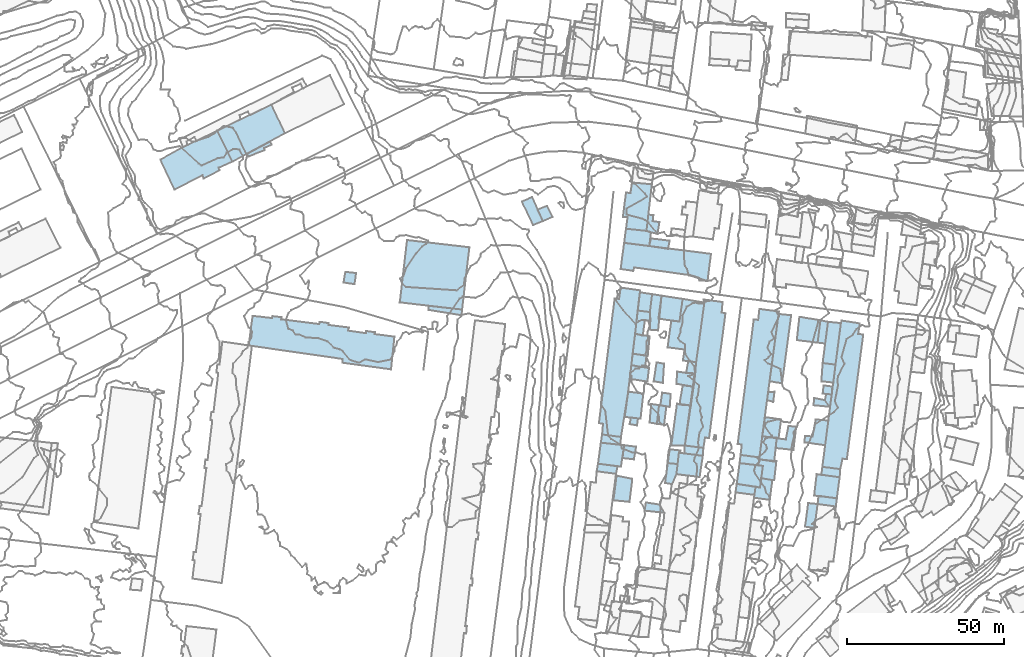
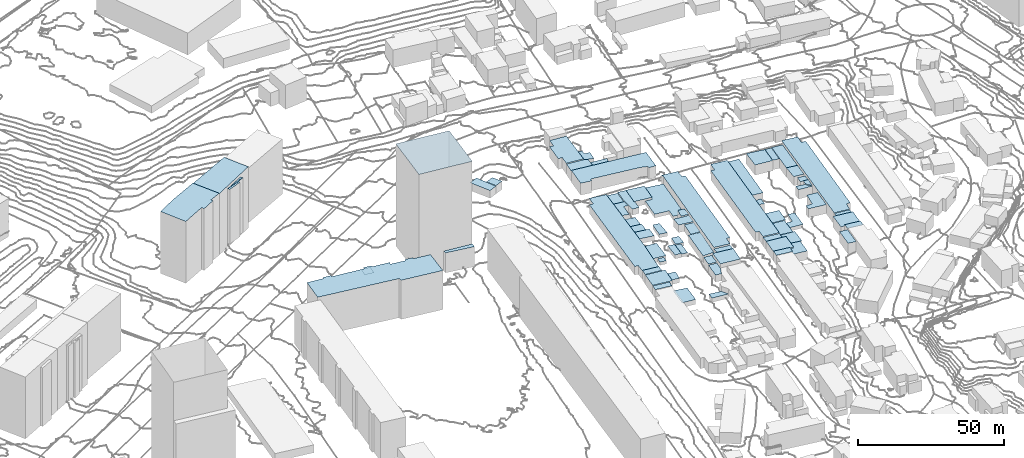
# Not in any storey, part 90 of 419: 68 roofs.
"""IFC2X3 model written with IfcOpenShell, lengths in metres."""

import ifcopenshell
import ifcopenshell.guid

model = None  # the IFC model being written
_history = None  # IfcOwnerHistory: only IFC2X3 demands one
_inside = {}  # id of a spatial element -> (the spatial element, [elements in it])
_under = {}  # id of a project, library or spatial element -> (it, [spatial elements below it])
_declared = {}  # id of a project -> (the project, [libraries it declares])
_typed = {}  # id of a type object -> (the type object, [elements of that type])
_made_of = {}  # id of a material, layer set ... -> (it, [elements and type objects made of it])


def new_model(schema):
    """Start an empty IFC model of exactly this schema.

    Asked for "IFC4X3", IfcOpenShell would pick the latest addendum, in which some entities
    have other attributes; the version numbers below select the first issue.
    IFC2X3 requires an IfcOwnerHistory on every rooted entity: one is made here for all.
    """
    global model, _history
    if schema == "IFC4X3":
        model = ifcopenshell.file(schema_version=(4, 3, 0, 0))
    else:
        model = ifcopenshell.file(schema=schema)
    _inside.clear()
    _under.clear()
    _declared.clear()
    _typed.clear()
    _made_of.clear()
    _history = None
    if model.schema == "IFC2X3":
        org = make("IfcOrganization", Name="unknown")
        user = make(
            "IfcPersonAndOrganization",
            ThePerson=make("IfcPerson", FamilyName="unknown"),
            TheOrganization=org,
        )
        app = make(
            "IfcApplication",
            ApplicationDeveloper=org,
            Version="unknown",
            ApplicationFullName="unknown",
            ApplicationIdentifier="unknown",
        )
        _history = make(
            "IfcOwnerHistory",
            OwningUser=user,
            OwningApplication=app,
            ChangeAction="ADDED",
            CreationDate=0,
        )
    return model


def make(cls, **values):
    """One entity of the class cls with the attributes given. An attribute that is None is left unset."""
    return model.create_entity(
        cls, **{name: value for name, value in values.items() if value is not None}
    )


def rooted(cls, **values):
    """An entity with a GlobalId (a new one), such as an element, a storey or a relation."""
    return make(cls, GlobalId=ifcopenshell.guid.new(), OwnerHistory=_history, **values)


def si_unit(unit_type, name, prefix=None):
    """IfcSIUnit, for example si_unit("LENGTHUNIT", "METRE", prefix="MILLI")."""
    return make("IfcSIUnit", UnitType=unit_type, Prefix=prefix, Name=name)


def assignment(units):
    """IfcUnitAssignment: the units of a project."""
    return None if units is None else make("IfcUnitAssignment", Units=units)


def point(xyz):
    """IfcCartesianPoint."""
    return None if xyz is None else make("IfcCartesianPoint", Coordinates=xyz)


def direction(xyz):
    """IfcDirection."""
    return None if xyz is None else make("IfcDirection", DirectionRatios=xyz)


def frame(location, z_axis=None, x_axis=None):
    """IfcAxis2Placement3D, a coordinate frame: its origin and axes. An axis left out is left unset."""
    return make(
        "IfcAxis2Placement3D",
        Location=point(location),
        Axis=direction(z_axis),
        RefDirection=direction(x_axis),
    )


def origin_with_axes():
    """The frame at (0, 0, 0) with the z axis (0, 0, 1) and the x axis (1, 0, 0) written out."""
    return frame((0.0, 0.0, 0.0), z_axis=(0.0, 0.0, 1.0), x_axis=(1.0, 0.0, 0.0))


def place(relative_to, where):
    """IfcLocalPlacement: puts the frame where relative to a parent placement (None: the world)."""
    return make(
        "IfcLocalPlacement", PlacementRelTo=relative_to, RelativePlacement=where
    )


def context(
    kind, dimensions, precision=None, world=None, true_north=None, identifier=None
):
    """IfcGeometricRepresentationContext, for example the 3D "Model" context."""
    return make(
        "IfcGeometricRepresentationContext",
        ContextIdentifier=identifier,
        ContextType=kind,
        CoordinateSpaceDimension=dimensions,
        Precision=precision,
        WorldCoordinateSystem=world,
        TrueNorth=true_north,
    )


def subcontext(parent, identifier, kind, view, scale=None):
    """IfcGeometricRepresentationSubContext, for example "Body" below "Model"."""
    return make(
        "IfcGeometricRepresentationSubContext",
        ContextIdentifier=identifier,
        ContextType=kind,
        ParentContext=parent,
        TargetScale=scale,
        TargetView=view,
    )


def project(units=None, contexts=None):
    """IfcProject with its units and contexts."""
    return rooted(
        "IfcProject",
        Name="project",
        RepresentationContexts=contexts,
        UnitsInContext=assignment(units),
    )


def faces_of(points, faces, orient=None, outer=None):
    """IfcFace entities. A face is a list of loops; a loop is a list of indices into points, from 0.

    orient and outer hold one flag for each loop. By default every Orientation is true, the
    first loop of a face is its IfcFaceOuterBound and the others are IfcFaceBound.
    """
    made = []
    for i, loops in enumerate(faces):
        bounds = []
        for j, loop in enumerate(loops):
            is_outer = j == 0 if outer is None else outer[i][j]
            bounds.append(
                make(
                    "IfcFaceOuterBound" if is_outer else "IfcFaceBound",
                    Bound=make("IfcPolyLoop", Polygon=[points[k] for k in loop]),
                    Orientation=True if orient is None else orient[i][j],
                )
            )
        made.append(make("IfcFace", Bounds=bounds))
    return made


def faceted_brep(points, faces, orient=None, outer=None, voids=None):
    """IfcFacetedBrep: a solid bounded by flat faces; with voids (closed shells), ...WithVoids."""
    shared = [point(p) for p in points]
    hull = make("IfcClosedShell", CfsFaces=faces_of(shared, faces, orient, outer))
    if voids is None:
        return make("IfcFacetedBrep", Outer=hull)
    return make(
        "IfcFacetedBrepWithVoids",
        Outer=hull,
        Voids=[
            make(cls, CfsFaces=faces_of(shared, fs, o, b)) for cls, fs, o, b in voids
        ],
    )


def shape(context_of_items, identifier, shape_type, items):
    """IfcShapeRepresentation: the items that make up one representation, for example the "Body"."""
    return make(
        "IfcShapeRepresentation",
        ContextOfItems=context_of_items,
        RepresentationIdentifier=identifier,
        RepresentationType=shape_type,
        Items=items,
    )


def made_of(thing, what):
    """Note that an element or type object is made of a material, layer set ...; save() writes the relation."""
    if what is not None:
        _made_of.setdefault(what.id(), (what, []))[1].append(thing)
    return thing


def element(
    cls,
    number,
    at=None,
    inside=None,
    cuts=None,
    type_object=None,
    material=None,
    context=None,
    identifier="Body",
    shape_type=None,
    held_by="IfcProductDefinitionShape",
    body=None,
    shapes=None,
    **own,
):
    """One element of the class cls, such as IfcWall. Its Tag is "e" and its number.

    at: its placement. inside: the storey or other place that contains it. cuts: it is an
    opening in that element (IfcRelVoidsElement). A single representation is given by context,
    identifier, shape_type and body (its items); several are given by shapes. held_by: the class
    of the entity that holds the representations. save() writes the other relations.
    """
    e = rooted(cls, Tag="e%d" % number, ObjectPlacement=at, **own)
    if body is not None:
        shapes = [shape(context, identifier, shape_type, body)]
    if shapes is not None:
        e.Representation = make(held_by, Representations=shapes)
    if inside is not None:
        _inside.setdefault(inside.id(), (inside, []))[1].append(e)
    if cuts is not None:
        rooted(
            "IfcRelVoidsElement", RelatingBuildingElement=cuts, RelatedOpeningElement=e
        )
    if type_object is not None:
        _typed.setdefault(type_object.id(), (type_object, []))[1].append(e)
    return made_of(e, material)


def aggregate(whole, parts):
    """IfcRelAggregates: a whole, such as a stair, and the parts it consists of."""
    return rooted("IfcRelAggregates", RelatingObject=whole, RelatedObjects=parts)


def save(model, path):
    """Write the relations noted so far, then the file.

    IfcRelAggregates (storeys below a building ...), IfcRelContainedInSpatialStructure (elements
    in a storey), IfcRelDefinesByType, IfcRelAssociatesMaterial and IfcRelDeclares: one each for
    every whole, place, type object, material and project.
    """
    for whole, parts in _under.values():
        aggregate(whole, parts)
    for where, things in _inside.values():
        rooted(
            "IfcRelContainedInSpatialStructure",
            RelatedElements=things,
            RelatingStructure=where,
        )
    for kind, things in _typed.values():
        rooted("IfcRelDefinesByType", RelatedObjects=things, RelatingType=kind)
    for what, things in _made_of.values():
        rooted("IfcRelAssociatesMaterial", RelatedObjects=things, RelatingMaterial=what)
    for by, libraries in _declared.values():
        rooted("IfcRelDeclares", RelatingContext=by, RelatedDefinitions=libraries)
    model.write(path)


model = new_model("IFC2X3")

# Units and contexts
model_context = context("Model", 3, precision=1e-05, world=origin_with_axes())
body_context = subcontext(model_context, "Body", "Model", "MODEL_VIEW")
ifc_project = project(units=[si_unit("AREAUNIT", "SQUARE_METRE"), si_unit("LENGTHUNIT", "METRE")], contexts=[model_context])

# Roofs
roof_1_placement = place(None, frame((536.0920204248, 752.4976909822, 39.0440010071), z_axis=(0.0, 0.0, 1.0), x_axis=(1.0, 0.0, 0.0)))
element("IfcRoof", 1, at=roof_1_placement, Name="Toiture 0", ShapeType="NOTDEFINED", context=body_context, shape_type="Brep", body=[
    faceted_brep([(0.9, -4.0999999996, 2.6559989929), (4.4, -4.6999999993, 2.6559989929), (5.0, -4.6999999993, 2.6559989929), (5.7, 1.3000000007, 2.6559989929), (0.2, 1.9000000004, 2.6559989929), (0.0, 0.0, 2.6559989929), (1.4, -0.1999999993, 2.6559989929)], [[[0, 1, 2]], [[2, 3, 4]], [[4, 5, 6]], [[6, 0, 2]], [[2, 4, 6]]]),
])
roof_2_placement = place(None, frame((536.2920204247, 754.3976909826, 38.9300006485), z_axis=(0.0, 0.0, 1.0), x_axis=(1.0, 0.0, 0.0)))
element("IfcRoof", 2, at=roof_2_placement, Name="Toiture 0", ShapeType="NOTDEFINED", context=body_context, shape_type="Brep", body=[
    faceted_brep([(0.0, 0.0, 2.8699993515), (4.8, -0.7000000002, 2.8699993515), (5.6000000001, 6.7000000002, 2.8699993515), (1.0, 7.2999999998, 2.8699993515)], [[[0, 1, 2]], [[2, 3, 0]]]),
])
roof_3_placement = place(None, frame((537.2920204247, 761.6976909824, 38.8383990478), z_axis=(0.0, 0.0, 1.0), x_axis=(1.0, 0.0, 0.0)))
element("IfcRoof", 3, at=roof_3_placement, Name="Toiture 0", ShapeType="NOTDEFINED", context=body_context, shape_type="Brep", body=[
    faceted_brep([(0.9, 6.1000000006, 3.0616009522), (0.0, 0.0, 3.0616009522), (5.2000000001, -0.5, 3.0616009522), (6.0, 5.4000000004, 3.0616009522)], [[[0, 1, 2]], [[2, 3, 0]]]),
])
roof_4_placement = place(None, frame((500.4920204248, 826.9976909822, 37.8899995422), z_axis=(0.0, 0.0, 1.0), x_axis=(1.0, 0.0, 0.0)))
element("IfcRoof", 4, at=roof_4_placement, Name="Toiture 0", ShapeType="NOTDEFINED", context=body_context, shape_type="Brep", body=[
    faceted_brep([(0.6, 5.2000000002, 3.8100004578), (0.0, 0.0, 3.8100004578), (3.5, -1.0, 3.8100004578), (4.1, 2.8000000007, 3.8100004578), (2.0, 3.1000000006, 3.8100004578), (2.2, 5.0, 3.8100004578)], [[[0, 1, 2]], [[2, 3, 4]], [[4, 5, 0]], [[0, 2, 4]]]),
])
roof_5_placement = place(None, frame((496.0920204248, 787.9976909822, 36.4690006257), z_axis=(0.0, 0.0, 1.0), x_axis=(1.0, 0.0, 0.0)))
element("IfcRoof", 5, at=roof_5_placement, Name="Toiture 0", ShapeType="NOTDEFINED", context=body_context, shape_type="Brep", body=[
    faceted_brep([(5.4, 5.5, 1.1309993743), (0.8, 6.3000000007, 1.1309993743), (0.0, 0.0, 1.1309993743), (4.8, -0.6999999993, 1.1309993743)], [[[0, 1, 2]], [[2, 3, 0]]]),
])
roof_6_placement = place(None, frame((492.9920204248, 831.4976909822, 37.6191995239), z_axis=(0.0, 0.0, 1.0), x_axis=(1.0, 0.0, 0.0)))
element("IfcRoof", 6, at=roof_6_placement, Name="Toiture 0", ShapeType="NOTDEFINED", context=body_context, shape_type="Brep", body=[
    faceted_brep([(1.0, -3.7999999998, 4.4808004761), (7.5, -4.5, 4.4808004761), (9.2, 10.3000000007, 4.4808004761), (2.9, 10.9000000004, 4.4808004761), (2.4, 7.5, 4.4808004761), (1.0, 7.7000000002, 4.4808004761), (0.0, 0.0, 4.4808004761), (1.5, -0.0999999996, 4.4808004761)], [[[0, 1, 2]], [[2, 3, 4]], [[4, 5, 6]], [[7, 0, 2]], [[2, 4, 6]], [[6, 7, 2]]]),
])
roof_7_placement = place(None, frame((534.6920204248, 742.1976909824, 38.0832015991), z_axis=(0.0, 0.0, 1.0), x_axis=(1.0, 0.0, 0.0)))
element("IfcRoof", 7, at=roof_7_placement, Name="Toiture 0", ShapeType="NOTDEFINED", context=body_context, shape_type="Brep", body=[
    faceted_brep([(0.5, 3.5, 3.6167984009), (0.1, 0.9000000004, 3.6167984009), (0.0, 0.0, 3.6167984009), (5.0, -0.7000000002, 3.6167984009), (5.8, 5.6000000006, 3.6167984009), (2.3, 6.2000000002, 3.6167984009), (1.9, 3.2000000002, 3.6167984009)], [[[0, 1, 2]], [[2, 3, 4]], [[4, 5, 6]], [[6, 0, 2]], [[2, 4, 6]]]),
])
roof_8_placement = place(None, frame((553.7920204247, 742.8976909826, 41.4479988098), z_axis=(0.0, 0.0, 1.0), x_axis=(1.0, 0.0, 0.0)))
element("IfcRoof", 8, at=roof_8_placement, Name="Toiture 0", ShapeType="NOTDEFINED", context=body_context, shape_type="Brep", body=[
    faceted_brep([(7.2000000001, -0.9000000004, 4.5520011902), (8.1000000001, 5.7999999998, 4.5520011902), (0.8, 6.7999999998, 4.5520011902), (0.0, 0.0, 4.5520011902)], [[[0, 1, 2]], [[2, 3, 0]]]),
])
roof_9_placement = place(None, frame((373.5920204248, 851.4976909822, 36.4020008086), z_axis=(0.0, 0.0, 1.0), x_axis=(1.0, 0.0, 0.0)))
element("IfcRoof", 9, at=roof_9_placement, Name="Toiture 0", ShapeType="NOTDEFINED", context=body_context, shape_type="Brep", body=[
    faceted_brep([(7.8, 3.0, 22.7979991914), (7.3, 3.9000000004, 22.7979991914), (0.0, 0.0, 22.7979991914), (0.4, -0.7999999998, 22.7979991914), (5.5, 1.2000000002, 22.7979991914), (5.4, 1.9000000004, 22.7979991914)], [[[0, 1, 2]], [[2, 3, 4]], [[5, 0, 2]], [[2, 4, 5]]]),
])
roof_10_placement = place(None, frame((550.8920204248, 732.9976909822, 41.685300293), z_axis=(0.0, 0.0, 1.0), x_axis=(1.0, 0.0, 0.0)))
element("IfcRoof", 10, at=roof_10_placement, Name="Toiture 0", ShapeType="NOTDEFINED", context=body_context, shape_type="Brep", body=[
    faceted_brep([(3.0, -0.3999999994, 4.414699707), (4.0, 7.2000000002, 4.414699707), (1.0, 7.5, 4.414699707), (0.0, 0.0, 4.414699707)], [[[0, 1, 2]], [[2, 3, 0]]]),
])
roof_11_placement = place(None, frame((538.7920204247, 773.1976909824, 38.4532003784), z_axis=(0.0, 0.0, 1.0), x_axis=(1.0, 0.0, 0.0)))
element("IfcRoof", 11, at=roof_11_placement, Name="Toiture 0", ShapeType="NOTDEFINED", context=body_context, shape_type="Brep", body=[
    faceted_brep([(2.4, 2.7000000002, 3.7467996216), (0.4, 2.6000000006, 3.7467996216), (0.0, 0.0, 3.7467996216), (2.0, -0.5, 3.7467996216)], [[[0, 1, 2]], [[2, 3, 0]]]),
])
roof_12_placement = place(None, frame((556.0920204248, 749.4976909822, 41.3992001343), z_axis=(0.0, 0.0, 1.0), x_axis=(1.0, 0.0, 0.0)))
element("IfcRoof", 12, at=roof_12_placement, Name="Toiture 0", ShapeType="NOTDEFINED", context=body_context, shape_type="Brep", body=[
    faceted_brep([(5.8, -0.7999999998, 3.8007998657), (6.0, 1.8000000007, 3.8007998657), (0.3, 2.5, 3.8007998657), (0.0, 0.0, 3.8007998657)], [[[0, 1, 2]], [[2, 3, 0]]]),
])
roof_13_placement = place(None, frame((502.7920204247, 779.1976909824, 37.2367999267), z_axis=(0.0, 0.0, 1.0), x_axis=(1.0, 0.0, 0.0)))
element("IfcRoof", 13, at=roof_13_placement, Name="Toiture 0", ShapeType="NOTDEFINED", context=body_context, shape_type="Brep", body=[
    faceted_brep([(3.3, 5.6000000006, 1.4632000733), (0.9, 6.0, 1.4632000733), (0.0, 0.0, 1.4632000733), (2.9, -0.5, 1.4632000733)], [[[0, 1, 2]], [[2, 3, 0]]]),
])
roof_14_placement = place(None, frame((503.7920204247, 765.6976909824, 36.9349994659), z_axis=(0.0, 0.0, 1.0), x_axis=(1.0, 0.0, 0.0)))
element("IfcRoof", 14, at=roof_14_placement, Name="Toiture 0", ShapeType="NOTDEFINED", context=body_context, shape_type="Brep", body=[
    faceted_brep([(3.0, 5.5, 1.2650005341), (0.7000000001, 5.9000000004, 1.2650005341), (0.0, 0.0, 1.2650005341), (2.3, -0.2999999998, 1.2650005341)], [[[0, 1, 2]], [[2, 3, 0]]]),
])
roof_15_placement = place(None, frame((508.3920204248, 758.7976909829, 37.1160003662), z_axis=(0.0, 0.0, 1.0), x_axis=(1.0, 0.0, 0.0)))
element("IfcRoof", 15, at=roof_15_placement, Name="Toiture 0", ShapeType="NOTDEFINED", context=body_context, shape_type="Brep", body=[
    faceted_brep([(0.0, 0.0, 2.9839996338), (4.2999999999, 0.0, 2.9839996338), (6.2, 12.6999999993, 2.9839996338), (1.7999999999, 13.2999999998, 2.9839996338)], [[[0, 1, 2]], [[2, 3, 0]]]),
])
roof_16_placement = place(None, frame((512.4920204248, 756.2976909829, 37.5744013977), z_axis=(0.0, 0.0, 1.0), x_axis=(1.0, 0.0, 0.0)))
element("IfcRoof", 16, at=roof_16_placement, Name="Toiture 0", ShapeType="NOTDEFINED", context=body_context, shape_type="Brep", body=[
    faceted_brep([(6.1, 1.6999999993, 3.9255986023), (0.2, 2.5, 3.9255986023), (0.0, 0.0, 3.9255986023), (5.9, -0.8000000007, 3.9255986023)], [[[0, 1, 2]], [[2, 3, 0]]]),
])
roof_17_placement = place(None, frame((495.6920204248, 784.2976909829, 36.4690006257), z_axis=(0.0, 0.0, 1.0), x_axis=(1.0, 0.0, 0.0)))
element("IfcRoof", 17, at=roof_17_placement, Name="Toiture 0", ShapeType="NOTDEFINED", context=body_context, shape_type="Brep", body=[
    faceted_brep([(4.8, 3.0, 2.4309993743), (0.4, 3.6999999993, 2.4309993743), (0.0, 0.0, 2.4309993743), (4.4, -0.7000000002, 2.4309993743)], [[[0, 1, 2]], [[2, 3, 0]]]),
])
roof_18_placement = place(None, frame((507.2920204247, 753.1976909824, 37.0859994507), z_axis=(0.0, 0.0, 1.0), x_axis=(1.0, 0.0, 0.0)))
element("IfcRoof", 18, at=roof_18_placement, Name="Toiture 0", ShapeType="NOTDEFINED", context=body_context, shape_type="Brep", body=[
    faceted_brep([(3.5, 3.2999999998, 3.3140005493), (4.0, 4.0, 3.3140005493), (0.6000000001, 4.4000000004, 3.3140005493), (0.0, 0.0, 3.3140005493), (3.1000000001, -0.2999999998, 3.3140005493)], [[[0, 1, 2]], [[2, 3, 4]], [[4, 0, 2]]]),
])
roof_19_placement = place(None, frame((492.8920204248, 754.7976909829, 35.7219993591), z_axis=(0.0, 0.0, 1.0), x_axis=(1.0, 0.0, 0.0)))
element("IfcRoof", 19, at=roof_19_placement, Name="Toiture 0", ShapeType="NOTDEFINED", context=body_context, shape_type="Brep", body=[
    faceted_brep([(0.5, 4.0999999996, 1.8780006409), (0.0, 0.0, 1.8780006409), (3.6, -0.4000000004, 1.8780006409), (4.2999999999, 3.5999999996, 1.8780006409)], [[[0, 1, 2]], [[2, 3, 0]]]),
])
roof_20_placement = place(None, frame((507.1920204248, 789.9976909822, 37.4983999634), z_axis=(0.0, 0.0, 1.0), x_axis=(1.0, 0.0, 0.0)))
element("IfcRoof", 20, at=roof_20_placement, Name="Toiture 0", ShapeType="NOTDEFINED", context=body_context, shape_type="Brep", body=[
    faceted_brep([(11.7000000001, 14.2000000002, 1.5016000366), (4.8, 15.4000000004, 1.5016000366), (3.8, 8.2000000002, 1.5016000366), (1.2000000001, 8.5, 1.5016000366), (0.0, 0.0, 1.5016000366), (5.4, -0.6999999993, 1.5016000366), (4.9, -4.1999999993, 1.5016000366), (9.1, -4.6999999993, 1.5016000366)], [[[0, 1, 2]], [[2, 3, 4]], [[5, 6, 7]], [[7, 0, 2]], [[2, 4, 5]], [[5, 7, 2]]]),
])
roof_21_placement = place(None, frame((513.0920204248, 781.8976909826, 37.9384004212), z_axis=(0.0, 0.0, 1.0), x_axis=(1.0, 0.0, 0.0)))
element("IfcRoof", 21, at=roof_21_placement, Name="Toiture 0", ShapeType="NOTDEFINED", context=body_context, shape_type="Brep", body=[
    faceted_brep([(3.2, 3.4000000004, 3.0615995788), (0.7, 3.7000000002, 3.0615995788), (0.0, 0.0, 3.0615995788), (2.9, -0.2000000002, 3.0615995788)], [[[0, 1, 2]], [[2, 3, 0]]]),
])
roof_22_placement = place(None, frame((495.1920204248, 779.9976909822, 36.8950008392), z_axis=(0.0, 0.0, 1.0), x_axis=(1.0, 0.0, 0.0)))
element("IfcRoof", 22, at=roof_22_placement, Name="Toiture 0", ShapeType="NOTDEFINED", context=body_context, shape_type="Brep", body=[
    faceted_brep([(6.1, 3.4000000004, 2.0049991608), (0.5, 4.3000000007, 2.0049991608), (0.0, 0.0, 2.0049991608), (5.6, -0.8999999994, 2.0049991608)], [[[0, 1, 2]], [[2, 3, 0]]]),
])
roof_23_placement = place(None, frame((495.1920204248, 765.5976909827, 36.6363998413), z_axis=(0.0, 0.0, 1.0), x_axis=(1.0, 0.0, 0.0)))
element("IfcRoof", 23, at=roof_23_placement, Name="Toiture 0", ShapeType="NOTDEFINED", context=body_context, shape_type="Brep", body=[
    faceted_brep([(2.6, 1.7999999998, 1.3636001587), (0.3, 2.0999999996, 1.3636001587), (0.0, 0.0, 1.3636001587), (2.3, -0.4000000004, 1.3636001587)], [[[0, 1, 2]], [[2, 3, 0]]]),
])
roof_24_placement = place(None, frame((556.4920204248, 775.2976909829, 40.5619991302), z_axis=(0.0, 0.0, 1.0), x_axis=(1.0, 0.0, 0.0)))
element("IfcRoof", 24, at=roof_24_placement, Name="Toiture 0", ShapeType="NOTDEFINED", context=body_context, shape_type="Brep", body=[
    faceted_brep([(2.9, -0.3000000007, 3.7380008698), (3.1, 2.1999999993, 3.7380008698), (0.2999999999, 2.5999999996, 3.7380008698), (0.0, 0.0, 3.7380008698)], [[[0, 1, 2]], [[2, 3, 0]]]),
])
roof_25_placement = place(None, frame((485.9920204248, 759.6976909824, 35.5533998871), z_axis=(0.0, 0.0, 1.0), x_axis=(1.0, 0.0, 0.0)))
element("IfcRoof", 25, at=roof_25_placement, Name="Toiture 0", ShapeType="NOTDEFINED", context=body_context, shape_type="Brep", body=[
    faceted_brep([(0.4, 2.6000000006, 4.0466001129), (0.0, 0.0, 4.0466001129), (6.2, -0.7000000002, 4.0466001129), (6.4, 1.7999999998, 4.0466001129)], [[[0, 1, 2]], [[2, 3, 0]]]),
])
roof_26_placement = place(None, frame((556.4920204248, 784.9976909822, 40.2458000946), z_axis=(0.0, 0.0, 1.0), x_axis=(1.0, 0.0, 0.0)))
element("IfcRoof", 26, at=roof_26_placement, Name="Toiture 0", ShapeType="NOTDEFINED", context=body_context, shape_type="Brep", body=[
    faceted_brep([(5.7999999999, 12.7000000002, 3.9541999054), (1.7, 13.1000000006, 3.9541999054), (0.0, 0.0, 3.9541999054), (4.1, -0.5, 3.9541999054)], [[[0, 1, 2]], [[2, 3, 0]]]),
])
roof_27_placement = place(None, frame((556.0920204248, 779.1976909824, 40.3780010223), z_axis=(0.0, 0.0, 1.0), x_axis=(1.0, 0.0, 0.0)))
element("IfcRoof", 27, at=roof_27_placement, Name="Toiture 0", ShapeType="NOTDEFINED", context=body_context, shape_type="Brep", body=[
    faceted_brep([(4.5, 5.2999999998, 3.8219989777), (0.4, 5.7999999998, 3.8219989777), (0.0, 0.0, 3.8219989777), (3.8, -0.3999999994, 3.8219989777)], [[[0, 1, 2]], [[2, 3, 0]]]),
])
roof_28_placement = place(None, frame((404.1920204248, 810.5976909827, 35.6151997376), z_axis=(0.0, 0.0, 1.0), x_axis=(1.0, 0.0, 0.0)))
element("IfcRoof", 28, at=roof_28_placement, Name="Toiture 0", ShapeType="NOTDEFINED", context=body_context, shape_type="Brep", body=[
    faceted_brep([(0.6, 3.3999999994, 1.5848002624), (0.0, 0.0, 1.5848002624), (3.5, -0.5, 1.5848002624), (4.0, 3.0, 1.5848002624)], [[[0, 1, 2]], [[2, 3, 0]]]),
])
roof_29_placement = place(None, frame((496.8920204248, 794.2976909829, 36.5808003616), z_axis=(0.0, 0.0, 1.0), x_axis=(1.0, 0.0, 0.0)))
element("IfcRoof", 29, at=roof_29_placement, Name="Toiture 0", ShapeType="NOTDEFINED", context=body_context, shape_type="Brep", body=[
    faceted_brep([(4.7, 6.8999999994, 2.9191996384), (0.7999999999, 7.3999999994, 2.9191996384), (0.0, 0.0, 2.9191996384), (2.3999999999, -0.6000000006, 2.9191996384), (3.1, 4.3999999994, 2.9191996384), (4.8999999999, 4.0999999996, 2.9191996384)], [[[0, 1, 2]], [[2, 3, 4]], [[4, 5, 0]], [[0, 2, 4]]]),
])
roof_30_placement = place(None, frame((497.6920204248, 801.6976909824, 37.1106988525), z_axis=(0.0, 0.0, 1.0), x_axis=(1.0, 0.0, 0.0)))
element("IfcRoof", 30, at=roof_30_placement, Name="Toiture 0", ShapeType="NOTDEFINED", context=body_context, shape_type="Brep", body=[
    faceted_brep([(4.6, 5.2000000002, 2.1893011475), (0.7000000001, 5.7999999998, 2.1893011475), (0.0, 0.0, 2.1893011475), (3.9, -0.5, 2.1893011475)], [[[0, 1, 2]], [[2, 3, 0]]]),
])
roof_31_placement = place(None, frame((501.3920204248, 822.1976909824, 37.6935987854), z_axis=(0.0, 0.0, 1.0), x_axis=(1.0, 0.0, 0.0)))
element("IfcRoof", 31, at=roof_31_placement, Name="Toiture 0", ShapeType="NOTDEFINED", context=body_context, shape_type="Brep", body=[
    faceted_brep([(0.5, 2.4000000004, 3.9064012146), (0.0, 0.0, 3.9064012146), (5.8999999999, -0.8999999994, 3.9064012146), (6.5, 1.7000000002, 3.9064012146)], [[[0, 1, 2]], [[2, 3, 0]]]),
])
roof_32_placement = place(None, frame((501.5920204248, 801.1976909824, 37.1959991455), z_axis=(0.0, 0.0, 1.0), x_axis=(1.0, 0.0, 0.0)))
element("IfcRoof", 32, at=roof_32_placement, Name="Toiture 0", ShapeType="NOTDEFINED", context=body_context, shape_type="Brep", body=[
    faceted_brep([(3.7, 5.2000000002, 2.5040008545), (0.7, 5.7000000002, 2.5040008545), (0.0, 0.0, 2.5040008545), (0.1, -5.5999999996, 2.5040008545), (2.6, -5.7999999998, 2.5040008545)], [[[0, 1, 2]], [[2, 3, 4]], [[4, 0, 2]]]),
])
roof_33_placement = place(None, frame((539.5920204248, 779.1976909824, 38.5800003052), z_axis=(0.0, 0.0, 1.0), x_axis=(1.0, 0.0, 0.0)))
element("IfcRoof", 33, at=roof_33_placement, Name="Toiture 0", ShapeType="NOTDEFINED", context=body_context, shape_type="Brep", body=[
    faceted_brep([(6.9, 21.0, 3.6199996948), (2.9, 21.4000000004, 3.6199996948), (0.0, 0.0, 3.6199996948), (4.0, -0.5999999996, 3.6199996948)], [[[0, 1, 2]], [[2, 3, 0]]]),
])
roof_34_placement = place(None, frame((554.8920204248, 740.1976909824, 41.7104003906), z_axis=(0.0, 0.0, 1.0), x_axis=(1.0, 0.0, 0.0)))
element("IfcRoof", 34, at=roof_34_placement, Name="Toiture 0", ShapeType="NOTDEFINED", context=body_context, shape_type="Brep", body=[
    faceted_brep([(5.7999999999, -0.7999999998, 4.7895996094), (6.1, 1.7999999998, 4.7895996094), (0.2999999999, 2.6000000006, 4.7895996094), (0.0, 0.0, 4.7895996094)], [[[0, 1, 2]], [[2, 3, 0]]]),
])
roof_35_placement = place(None, frame((512.6920204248, 758.7976909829, 37.5744013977), z_axis=(0.0, 0.0, 1.0), x_axis=(1.0, 0.0, 0.0)))
element("IfcRoof", 35, at=roof_35_placement, Name="Toiture 0", ShapeType="NOTDEFINED", context=body_context, shape_type="Brep", body=[
    faceted_brep([(6.2000000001, 45.3999999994, 4.5255986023), (3.6, 26.5, 4.5255986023), (0.0, 0.0, 4.5255986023), (5.9, -0.8000000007, 4.5255986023), (6.4, 2.5, 4.5255986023), (7.7000000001, 2.3999999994, 4.5255986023), (12.9, 42.0, 4.5255986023), (11.7000000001, 42.2999999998, 4.5255986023), (12.0, 45.5999999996, 4.5255986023), (6.0, 46.3999999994, 4.5255986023)], [[[0, 1, 2]], [[2, 3, 4]], [[4, 5, 6]], [[7, 8, 9]], [[0, 2, 4]], [[4, 6, 7]], [[7, 9, 0]], [[0, 4, 7]]]),
])
roof_36_placement = place(None, frame((499.8920204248, 738.0976909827, 36.1509001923), z_axis=(0.0, 0.0, 1.0), x_axis=(1.0, 0.0, 0.0)))
element("IfcRoof", 36, at=roof_36_placement, Name="Toiture 0", ShapeType="NOTDEFINED", context=body_context, shape_type="Brep", body=[
    faceted_brep([(6.2999999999, -0.7000000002, 1.7490998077), (4.8999999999, 1.8999999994, 1.7490998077), (0.3999999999, 2.5999999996, 1.7490998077), (0.0, 0.0, 1.7490998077)], [[[0, 1, 2]], [[2, 3, 0]]]),
])
roof_37_placement = place(None, frame((530.0920204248, 753.1976909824, 38.3579986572), z_axis=(0.0, 0.0, 1.0), x_axis=(1.0, 0.0, 0.0)))
element("IfcRoof", 37, at=roof_37_placement, Name="Toiture 0", ShapeType="NOTDEFINED", context=body_context, shape_type="Brep", body=[
    faceted_brep([(0.3, 2.6000000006, 3.6420013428), (0.0, 0.0, 3.6420013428), (6.0, -0.7000000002, 3.6420013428), (6.3, 1.7999999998, 3.6420013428)], [[[0, 1, 2]], [[2, 3, 0]]]),
])
roof_38_placement = place(None, frame((431.2920204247, 801.8976909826, 33.842800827), z_axis=(0.0, 0.0, 1.0), x_axis=(1.0, 0.0, 0.0)))
element("IfcRoof", 38, at=roof_38_placement, Name="Toiture 0", ShapeType="NOTDEFINED", context=body_context, shape_type="Brep", body=[
    faceted_brep([(10.4, -1.7000000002, 8.357199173), (10.6000000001, 0.0999999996, 8.357199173), (0.0, 1.2999999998, 8.357199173), (0.0, 0.0, 8.357199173)], [[[0, 1, 2]], [[2, 3, 0]]]),
])
roof_39_placement = place(None, frame((529.1920204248, 746.5976909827, 38.0880004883), z_axis=(0.0, 0.0, 1.0), x_axis=(1.0, 0.0, 0.0)))
element("IfcRoof", 39, at=roof_39_placement, Name="Toiture 0", ShapeType="NOTDEFINED", context=body_context, shape_type="Brep", body=[
    faceted_brep([(0.9, 6.5999999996, 3.9119995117), (0.0, 0.0, 3.9119995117), (7.4, -1.2000000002, 3.9119995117), (8.3, 5.7000000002, 3.9119995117)], [[[0, 1, 2]], [[2, 3, 0]]]),
])
roof_40_placement = place(None, frame((493.5920204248, 767.8976909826, 36.6200008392), z_axis=(0.0, 0.0, 1.0), x_axis=(1.0, 0.0, 0.0)))
element("IfcRoof", 40, at=roof_40_placement, Name="Toiture 0", ShapeType="NOTDEFINED", context=body_context, shape_type="Brep", body=[
    faceted_brep([(1.1, 8.0, 1.8799991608), (0.0, 0.0, 1.8799991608), (5.0, -0.5999999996, 1.8799991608), (5.9, 7.4000000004, 1.8799991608)], [[[0, 1, 2]], [[2, 3, 0]]]),
])
roof_41_placement = place(None, frame((557.1920204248, 773.1976909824, 40.6828004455), z_axis=(0.0, 0.0, 1.0), x_axis=(1.0, 0.0, 0.0)))
element("IfcRoof", 41, at=roof_41_placement, Name="Toiture 0", ShapeType="NOTDEFINED", context=body_context, shape_type="Brep", body=[
    faceted_brep([(0.0, 0.0, 3.7171995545), (1.6, -2.0999999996, 3.7171995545), (2.2000000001, 1.7999999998, 3.7171995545), (0.4, 2.0, 3.7171995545)], [[[0, 1, 2]], [[2, 3, 0]]]),
])
roof_42_placement = place(None, frame((501.4920204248, 766.0976909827, 36.8341002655), z_axis=(0.0, 0.0, 1.0), x_axis=(1.0, 0.0, 0.0)))
element("IfcRoof", 42, at=roof_42_placement, Name="Toiture 0", ShapeType="NOTDEFINED", context=body_context, shape_type="Brep", body=[
    faceted_brep([(2.2999999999, -0.4000000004, 1.6658997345), (3.0, 5.5, 1.6658997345), (0.5, 5.8999999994, 1.6658997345), (0.0, 0.0, 1.6658997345)], [[[0, 1, 2]], [[2, 3, 0]]]),
])
roof_43_placement = place(None, frame((504.8920204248, 771.5976909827, 37.0406004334), z_axis=(0.0, 0.0, 1.0), x_axis=(1.0, 0.0, 0.0)))
element("IfcRoof", 43, at=roof_43_placement, Name="Toiture 0", ShapeType="NOTDEFINED", context=body_context, shape_type="Brep", body=[
    faceted_brep([(0.6, 4.0, 1.3593995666), (0.0, 0.0, 1.3593995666), (3.0, -0.5, 1.3593995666), (3.2999999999, 3.5999999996, 1.3593995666)], [[[0, 1, 2]], [[2, 3, 0]]]),
])
roof_44_placement = place(None, frame((506.3920204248, 746.8976909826, 37.0859994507), z_axis=(0.0, 0.0, 1.0), x_axis=(1.0, 0.0, 0.0)))
element("IfcRoof", 44, at=roof_44_placement, Name="Toiture 0", ShapeType="NOTDEFINED", context=body_context, shape_type="Brep", body=[
    faceted_brep([(2.2, -0.4000000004, 2.9140005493), (3.6, 2.7999999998, 2.9140005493), (4.0, 6.0, 2.9140005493), (0.8999999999, 6.2999999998, 2.9140005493), (0.0, 0.0, 2.9140005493)], [[[0, 1, 2]], [[2, 3, 4]], [[4, 0, 2]]]),
])
roof_45_placement = place(None, frame((489.9920204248, 741.3976909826, 35.3760009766), z_axis=(0.0, 0.0, 1.0), x_axis=(1.0, 0.0, 0.0)))
element("IfcRoof", 45, at=roof_45_placement, Name="Toiture 0", ShapeType="NOTDEFINED", context=body_context, shape_type="Brep", body=[
    faceted_brep([(6.0, 6.7999999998, 2.0239990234), (1.0, 7.7999999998, 2.0239990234), (0.0, 0.0, 2.0239990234), (5.1, -0.5, 2.0239990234)], [[[0, 1, 2]], [[2, 3, 0]]]),
])
roof_46_placement = place(None, frame((510.9920204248, 771.7976909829, 37.4740007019), z_axis=(0.0, 0.0, 1.0), x_axis=(1.0, 0.0, 0.0)))
element("IfcRoof", 46, at=roof_46_placement, Name="Toiture 0", ShapeType="NOTDEFINED", context=body_context, shape_type="Brep", body=[
    faceted_brep([(0.0, 0.0, 2.8259992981), (3.6, -0.3000000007, 2.8259992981), (4.5, 5.6999999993, 2.8259992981), (1.0, 6.0999999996, 2.8259992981)], [[[0, 1, 2]], [[2, 3, 0]]]),
])
roof_47_placement = place(None, frame((553.5920204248, 771.5976909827, 40.2979999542), z_axis=(0.0, 0.0, 1.0), x_axis=(1.0, 0.0, 0.0)))
element("IfcRoof", 47, at=roof_47_placement, Name="Toiture 0", ShapeType="NOTDEFINED", context=body_context, shape_type="Brep", body=[
    faceted_brep([(0.0, 0.0, 3.9020000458), (5.2, -0.5, 3.9020000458), (3.6, 1.5999999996, 3.9020000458), (0.2, 2.2999999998, 3.9020000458)], [[[0, 1, 2]], [[2, 3, 0]]]),
])
roof_48_placement = place(None, frame((484.6920204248, 750.5976909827, 35.4380004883), z_axis=(0.0, 0.0, 1.0), x_axis=(1.0, 0.0, 0.0)))
element("IfcRoof", 48, at=roof_48_placement, Name="Toiture 0", ShapeType="NOTDEFINED", context=body_context, shape_type="Brep", body=[
    faceted_brep([(0.4, 2.3999999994, 3.7619995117), (0.0, 0.0, 3.7619995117), (6.1, -0.7999999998, 3.7619995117), (6.6, 1.5999999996, 3.7619995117)], [[[0, 1, 2]], [[2, 3, 0]]]),
])
roof_49_placement = place(None, frame((364.0920204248, 858.8976909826, 34.5357012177), z_axis=(0.0, 0.0, 1.0), x_axis=(1.0, 0.0, 0.0)))
element("IfcRoof", 49, at=roof_49_placement, Name="Toiture 0", ShapeType="NOTDEFINED", context=body_context, shape_type="Brep", body=[
    faceted_brep([(4.8, -9.7999999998, 25.6642987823), (21.5, -0.7999999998, 25.6642987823), (17.2, 8.2999999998, 25.6642987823), (0.0, 0.0, 25.6642987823)], [[[0, 1, 2]], [[2, 3, 0]]]),
])
roof_50_placement = place(None, frame((509.9920204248, 778.3976909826, 37.4320007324), z_axis=(0.0, 0.0, 1.0), x_axis=(1.0, 0.0, 0.0)))
element("IfcRoof", 50, at=roof_50_placement, Name="Toiture 0", ShapeType="NOTDEFINED", context=body_context, shape_type="Brep", body=[
    faceted_brep([(3.1, 3.5, 3.1679992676), (0.2999999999, 3.9000000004, 3.1679992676), (0.0, 0.0, 3.1679992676), (5.5, -0.9000000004, 3.1679992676), (6.0, 3.2999999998, 3.1679992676)], [[[0, 1, 2]], [[2, 3, 4]], [[4, 0, 2]]]),
])
roof_51_placement = place(None, frame((374.0920204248, 790.5976909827, 34.1350006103), z_axis=(0.0, 0.0, 1.0), x_axis=(1.0, 0.0, 0.0)))
element("IfcRoof", 51, at=roof_51_placement, Name="Toiture 0", ShapeType="NOTDEFINED", context=body_context, shape_type="Brep", body=[
    faceted_brep([(1.2, 9.3999999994, 16.3649993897), (0.0, 0.0, 16.3649993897), (29.8, -4.2999999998, 16.3649993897), (29.8, -5.5, 16.3649993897), (45.2, -7.6000000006, 16.3649993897), (46.3, 2.7999999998, 16.3649993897), (40.0, 3.5999999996, 16.3649993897), (40.1, 4.2000000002, 16.3649993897), (37.2, 4.5999999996, 16.3649993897), (31.5, 4.7000000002, 16.3649993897), (31.8, 5.7000000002, 16.3649993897), (25.3, 6.5, 16.3649993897), (25.4, 7.0999999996, 16.3649993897), (22.5, 7.5, 16.3649993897), (10.3, 8.2999999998, 16.3649993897), (10.4, 9.0, 16.3649993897), (7.5, 9.2999999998, 16.3649993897), (7.4, 8.7000000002, 16.3649993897), (37.2, 3.8999999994, 16.3649993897), (22.4, 6.7999999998, 16.3649993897)], [[[0, 1, 2]], [[2, 3, 4]], [[4, 5, 6]], [[6, 7, 8]], [[9, 10, 11]], [[11, 12, 13]], [[14, 15, 16]], [[17, 0, 2]], [[2, 4, 6]], [[6, 8, 18]], [[11, 13, 19]], [[14, 16, 17]], [[2, 6, 18]], [[9, 11, 19]], [[14, 17, 2]], [[2, 18, 9]], [[9, 19, 14]], [[14, 2, 9]]]),
])
roof_52_placement = place(None, frame((422.0920204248, 804.2976909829, 34.1403998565), z_axis=(0.0, 0.0, 1.0), x_axis=(1.0, 0.0, 0.0)))
element("IfcRoof", 52, at=roof_52_placement, Name="Toiture 0", ShapeType="NOTDEFINED", context=body_context, shape_type="Brep", body=[
    faceted_brep([(0.0, 0.0, 42.6596001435), (19.8, -2.3000000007, 42.6596001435), (22.1, 17.5, 42.6596001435), (2.3, 19.7999999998, 42.6596001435)], [[[0, 1, 2]], [[2, 3, 0]]]),
])
roof_53_placement = place(None, frame((509.9920204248, 749.6976909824, 37.4170002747), z_axis=(0.0, 0.0, 1.0), x_axis=(1.0, 0.0, 0.0)))
element("IfcRoof", 53, at=roof_53_placement, Name="Toiture 0", ShapeType="NOTDEFINED", context=body_context, shape_type="Brep", body=[
    faceted_brep([(0.4, 3.2000000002, 4.2829997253), (0.0, 0.0, 4.2829997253), (7.4, -0.8999999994, 4.2829997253), (8.4, 5.7999999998, 4.2829997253), (0.7999999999, 6.7999999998, 4.2829997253)], [[[0, 1, 2]], [[2, 3, 4]], [[4, 0, 2]]]),
])
roof_54_placement = place(None, frame((554.8920204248, 791.4976909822, 40.0251986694), z_axis=(0.0, 0.0, 1.0), x_axis=(1.0, 0.0, 0.0)))
element("IfcRoof", 54, at=roof_54_placement, Name="Toiture 0", ShapeType="NOTDEFINED", context=body_context, shape_type="Brep", body=[
    faceted_brep([(3.2999999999, 6.6000000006, 3.9748013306), (0.8999999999, 7.1000000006, 3.9748013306), (0.0, 0.0, 3.9748013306), (2.3999999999, -0.2999999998, 3.9748013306)], [[[0, 1, 2]], [[2, 3, 0]]]),
])
roof_55_placement = place(None, frame((493.3920204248, 823.1976909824, 37.3968002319), z_axis=(0.0, 0.0, 1.0), x_axis=(1.0, 0.0, 0.0)))
element("IfcRoof", 55, at=roof_55_placement, Name="Toiture 0", ShapeType="NOTDEFINED", context=body_context, shape_type="Brep", body=[
    faceted_brep([(0.6, 4.5, 4.4031997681), (0.0, 0.0, 4.4031997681), (8.0, -1.0, 4.4031997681), (8.5, 3.1000000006, 4.4031997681), (7.1, 3.7999999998, 4.4031997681)], [[[0, 1, 2]], [[2, 3, 4]], [[4, 0, 2]]]),
])
roof_56_placement = place(None, frame((345.9920204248, 849.6976909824, 34.4988005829), z_axis=(0.0, 0.0, 1.0), x_axis=(1.0, 0.0, 0.0)))
element("IfcRoof", 56, at=roof_56_placement, Name="Toiture 0", ShapeType="NOTDEFINED", context=body_context, shape_type="Brep", body=[
    faceted_brep([(18.5, -2.5999999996, 25.9011994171), (22.9, -0.5999999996, 25.9011994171), (18.1, 9.2000000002, 25.9011994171), (7.2, 4.0, 25.9011994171), (0.0, 0.0, 25.9011994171), (4.5, -9.5, 25.9011994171), (13.4, -5.0, 25.9011994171), (13.7999999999, -6.0, 25.9011994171), (18.7999999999, -3.3999999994, 25.9011994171)], [[[0, 1, 2]], [[2, 3, 4]], [[4, 5, 6]], [[6, 7, 8]], [[0, 2, 4]], [[4, 6, 8]], [[8, 0, 4]]]),
])
roof_57_placement = place(None, frame((529.4920204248, 759.2976909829, 38.4549007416), z_axis=(0.0, 0.0, 1.0), x_axis=(1.0, 0.0, 0.0)))
element("IfcRoof", 57, at=roof_57_placement, Name="Toiture 0", ShapeType="NOTDEFINED", context=body_context, shape_type="Brep", body=[
    faceted_brep([(1.2999999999, -0.2000000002, 3.8450992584), (0.9, -3.5, 3.8450992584), (6.9, -4.3000000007, 3.8450992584), (13.1, 42.0999999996, 3.8450992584), (6.9, 42.8999999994, 3.8450992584), (6.5, 39.3999999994, 3.8450992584), (5.1, 39.5999999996, 3.8450992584), (0.0, 0.0, 3.8450992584)], [[[0, 1, 2]], [[2, 3, 4]], [[5, 6, 7]], [[2, 4, 5]], [[5, 7, 0]], [[0, 2, 5]]]),
])
roof_58_placement = place(None, frame((556.3920204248, 751.9976909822, 40.5050003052), z_axis=(0.0, 0.0, 1.0), x_axis=(1.0, 0.0, 0.0)))
element("IfcRoof", 58, at=roof_58_placement, Name="Toiture 0", ShapeType="NOTDEFINED", context=body_context, shape_type="Brep", body=[
    faceted_brep([(6.1, 46.5, 4.8949996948), (5.8999999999, 45.7000000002, 4.8949996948), (0.0, 0.0, 4.8949996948), (5.7, -0.6999999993, 4.8949996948), (6.3999999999, 2.6000000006, 4.8949996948), (7.7999999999, 2.5, 4.8949996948), (13.0, 42.0, 4.8949996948), (11.3999999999, 42.3000000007, 4.8949996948), (11.8999999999, 45.6000000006, 4.8949996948)], [[[0, 1, 2]], [[2, 3, 4]], [[4, 5, 6]], [[7, 8, 0]], [[0, 2, 4]], [[4, 6, 7]], [[7, 0, 4]]]),
])
roof_59_placement = place(None, frame((504.2920204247, 799.0976909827, 37.4920009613), z_axis=(0.0, 0.0, 1.0), x_axis=(1.0, 0.0, 0.0)))
element("IfcRoof", 59, at=roof_59_placement, Name="Toiture 0", ShapeType="NOTDEFINED", context=body_context, shape_type="Brep", body=[
    faceted_brep([(7.7000000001, 6.2999999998, 2.3079990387), (1.0, 7.2999999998, 2.3079990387), (0.0, 0.0, 2.3079990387), (6.7000000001, -0.9000000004, 2.3079990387)], [[[0, 1, 2]], [[2, 3, 0]]]),
])
roof_60_placement = place(None, frame((492.2920204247, 814.8976909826, 37.1345001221), z_axis=(0.0, 0.0, 1.0), x_axis=(1.0, 0.0, 0.0)))
element("IfcRoof", 60, at=roof_60_placement, Name="Toiture 0", ShapeType="NOTDEFINED", context=body_context, shape_type="Brep", body=[
    faceted_brep([(24.9, -2.7999999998, 4.9654998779), (25.0, -3.5999999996, 4.9654998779), (27.6000000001, -3.7999999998, 4.9654998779), (28.7000000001, 4.7999999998, 4.9654998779), (1.1000000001, 8.2999999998, 4.9654998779), (0.0, 0.0, 4.9654998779), (4.0, -0.5999999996, 4.9654998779), (4.3, 0.5, 4.9654998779), (22.4, -2.0, 4.9654998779)], [[[0, 1, 2]], [[2, 3, 4]], [[4, 5, 6]], [[0, 2, 4]], [[4, 6, 7]], [[8, 0, 4]], [[4, 7, 8]]]),
])
roof_61_placement = place(None, frame((460.8920204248, 836.3976909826, 37.0680015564), z_axis=(0.0, 0.0, 1.0), x_axis=(1.0, 0.0, 0.0)))
element("IfcRoof", 61, at=roof_61_placement, Name="Toiture 0", ShapeType="NOTDEFINED", context=body_context, shape_type="Brep", body=[
    faceted_brep([(3.6, -7.5, 3.2319984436), (6.7, -6.2000000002, 3.2319984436), (3.2999999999, 1.4000000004, 3.2319984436), (0.0, 0.0, 3.2319984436)], [[[0, 1, 2]], [[2, 3, 0]]]),
])
roof_62_placement = place(None, frame((541.5920204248, 757.9976909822, 39.1079994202), z_axis=(0.0, 0.0, 1.0), x_axis=(1.0, 0.0, 0.0)))
element("IfcRoof", 62, at=roof_62_placement, Name="Toiture 0", ShapeType="NOTDEFINED", context=body_context, shape_type="Brep", body=[
    faceted_brep([(3.2, 2.7000000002, 1.4920005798), (0.3, 3.1000000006, 1.4920005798), (0.0, 0.0, 1.4920005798), (5.6, -0.5999999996, 1.4920005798), (6.5, 6.8000000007, 1.4920005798), (4.0, 7.0, 1.4920005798)], [[[0, 1, 2]], [[3, 4, 5]], [[0, 2, 3]], [[3, 5, 0]]]),
])
roof_63_placement = place(None, frame((528.7920204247, 743.8976909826, 38.0880004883), z_axis=(0.0, 0.0, 1.0), x_axis=(1.0, 0.0, 0.0)))
element("IfcRoof", 63, at=roof_63_placement, Name="Toiture 0", ShapeType="NOTDEFINED", context=body_context, shape_type="Brep", body=[
    faceted_brep([(0.4, 2.7000000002, 4.1119995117), (0.0, 0.0, 4.1119995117), (6.0, -0.7999999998, 4.1119995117), (6.4, 1.7999999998, 4.1119995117)], [[[0, 1, 2]], [[2, 3, 0]]]),
])
roof_64_placement = place(None, frame((550.6920204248, 759.7976909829, 40.672599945), z_axis=(0.0, 0.0, 1.0), x_axis=(1.0, 0.0, 0.0)))
element("IfcRoof", 64, at=roof_64_placement, Name="Toiture 0", ShapeType="NOTDEFINED", context=body_context, shape_type="Brep", body=[
    faceted_brep([(6.6, -0.9000000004, 3.727400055), (7.6, 6.8999999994, 3.727400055), (3.6, 7.2999999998, 3.727400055), (2.6, 1.8999999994, 3.727400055), (0.2000000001, 2.0, 3.727400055), (0.0, 0.0, 3.727400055)], [[[0, 1, 2]], [[3, 4, 5]], [[0, 2, 3]], [[3, 5, 0]]]),
])
roof_65_placement = place(None, frame((485.3920204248, 765.8976909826, 35.8050014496), z_axis=(0.0, 0.0, 1.0), x_axis=(1.0, 0.0, 0.0)))
element("IfcRoof", 65, at=roof_65_placement, Name="Toiture 0", ShapeType="NOTDEFINED", context=body_context, shape_type="Brep", body=[
    faceted_brep([(1.2999999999, -0.2000000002, 3.5949985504), (1.0, -3.5999999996, 3.5949985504), (7.0, -4.4000000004, 3.5949985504), (9.2999999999, 10.0, 3.5949985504), (13.1, 42.2000000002, 3.5949985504), (6.8999999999, 43.0999999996, 3.5949985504), (6.3999999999, 39.5, 3.5949985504), (5.0, 39.7000000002, 3.5949985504), (0.0, 0.0, 3.5949985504)], [[[0, 1, 2]], [[2, 3, 4]], [[4, 5, 6]], [[6, 7, 8]], [[0, 2, 4]], [[4, 6, 8]], [[8, 0, 4]]]),
])
roof_66_placement = place(None, frame((548.2920204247, 792.2976909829, 39.6029994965), z_axis=(0.0, 0.0, 1.0), x_axis=(1.0, 0.0, 0.0)))
element("IfcRoof", 66, at=roof_66_placement, Name="Toiture 0", ShapeType="NOTDEFINED", context=body_context, shape_type="Brep", body=[
    faceted_brep([(6.6000000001, -0.8000000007, 4.2970005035), (7.5, 6.2999999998, 4.2970005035), (0.8, 7.3999999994, 4.2970005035), (0.0, 0.0, 4.2970005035)], [[[0, 1, 2]], [[2, 3, 0]]]),
])
roof_67_placement = place(None, frame((465.8920204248, 833.7976909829, 37.0680015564), z_axis=(0.0, 0.0, 1.0), x_axis=(1.0, 0.0, 0.0)))
element("IfcRoof", 67, at=roof_67_placement, Name="Toiture 0", ShapeType="NOTDEFINED", context=body_context, shape_type="Brep", body=[
    faceted_brep([(0.0, 0.0, 3.4319984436), (1.7, -3.6000000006, 3.4319984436), (4.7999999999, -2.3000000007, 3.4319984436), (3.0, 1.1999999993, 3.4319984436)], [[[0, 1, 2]], [[2, 3, 0]]]),
])
roof_68_placement = place(None, frame((485.0920204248, 752.9976909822, 35.4380004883), z_axis=(0.0, 0.0, 1.0), x_axis=(1.0, 0.0, 0.0)))
element("IfcRoof", 68, at=roof_68_placement, Name="Toiture 0", ShapeType="NOTDEFINED", context=body_context, shape_type="Brep", body=[
    faceted_brep([(0.9, 6.7000000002, 3.9619995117), (0.0, 0.0, 3.9619995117), (7.3, -0.8999999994, 3.9619995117), (8.3, 5.9000000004, 3.9619995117)], [[[0, 1, 2]], [[2, 3, 0]]]),
])

save(model, "model.ifc")
